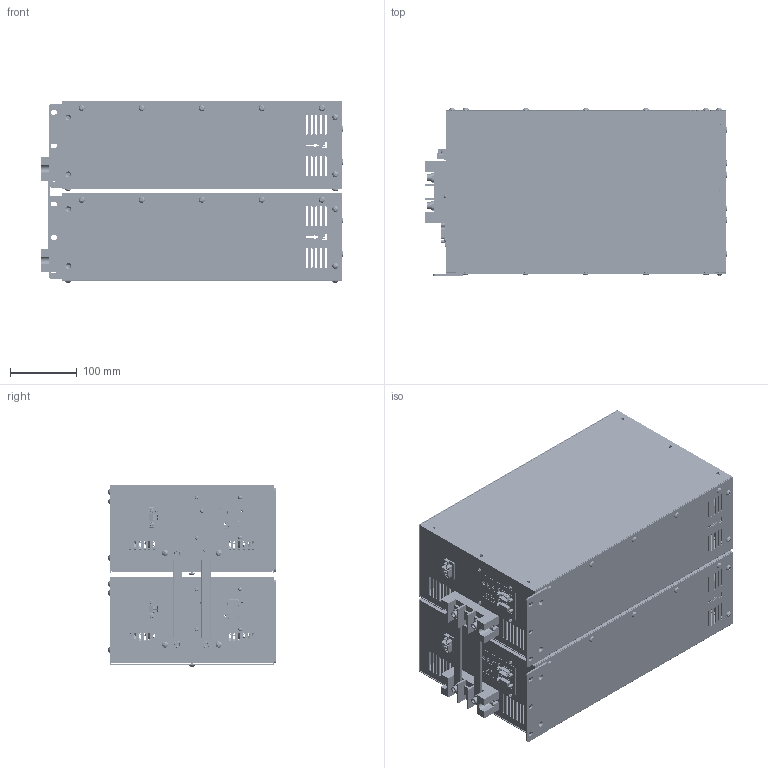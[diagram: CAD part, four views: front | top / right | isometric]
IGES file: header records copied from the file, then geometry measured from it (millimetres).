
Global section: file name: BUS-VX3-2P-i-L151; native system: Autodesk Inventor 2021; preprocessor: unknown; author: eunsol jang; date: 20231206.161824; units: inch
Bounding box: 449.8 x 250.54 x 271.59 mm (x, y, z)
Volume: 1369490.5 mm3; surface area: 1760247.3 mm2
Topology: 16 solids, 16 shells, 9318 faces, 27692 edges, 19184 vertices
Faces by surface type: bspline 9318
